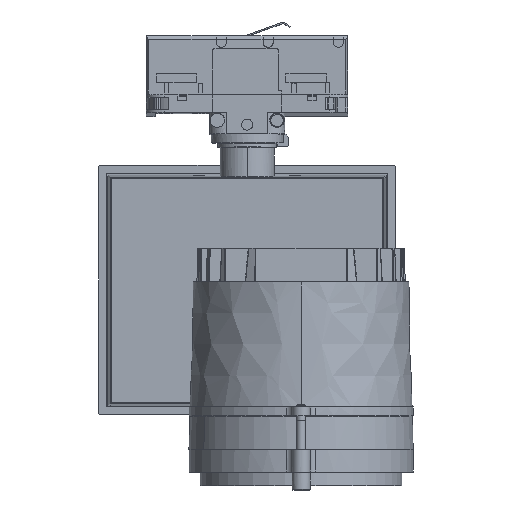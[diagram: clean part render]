
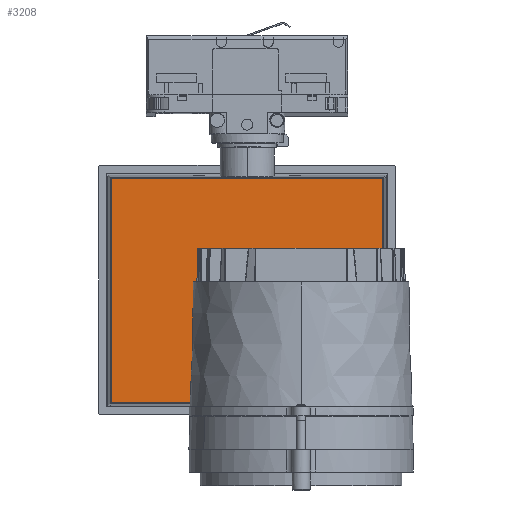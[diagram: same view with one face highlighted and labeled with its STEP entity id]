
A CAD part, left-side view. The second image highlights one B-rep face of the part: STEP entity #3208.
In plain terms, the highlighted planar face has unit normal (-1, 0, 0).
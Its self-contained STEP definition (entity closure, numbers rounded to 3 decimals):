
#2455=FACE_BOUND('',#10034,.T.);
#3208=ADVANCED_FACE('',(#6610,#2455),#61138,.T.);
#6610=FACE_OUTER_BOUND('',#10033,.T.);
#10033=EDGE_LOOP('',(#16710,#16711,#16712,#16713));
#10034=EDGE_LOOP('',(#16714));
#16710=ORIENTED_EDGE('',*,*,#31319,.F.);
#16711=ORIENTED_EDGE('',*,*,#31317,.F.);
#16712=ORIENTED_EDGE('',*,*,#31318,.F.);
#16713=ORIENTED_EDGE('',*,*,#31320,.T.);
#16714=ORIENTED_EDGE('',*,*,#31321,.F.);
#31317=EDGE_CURVE('',#55270,#55269,#41492,.T.);
#31318=EDGE_CURVE('',#55271,#55270,#41493,.T.);
#31319=EDGE_CURVE('',#55269,#55272,#41494,.T.);
#31320=EDGE_CURVE('',#55271,#55272,#41495,.T.);
#31321=EDGE_CURVE('',#55268,#55268,#51236,.T.);
#41492=B_SPLINE_CURVE_WITH_KNOTS('',1,(#102445,#102446),.UNSPECIFIED.,.F.,
 .F.,(2,2),(-120.826,0.),.UNSPECIFIED.);
#41493=B_SPLINE_CURVE_WITH_KNOTS('',1,(#102447,#102448),.UNSPECIFIED.,.F.,
 .F.,(2,2),(-99.826,0.),.UNSPECIFIED.);
#41494=B_SPLINE_CURVE_WITH_KNOTS('',1,(#102449,#102450),.UNSPECIFIED.,.F.,
 .F.,(2,2),(-99.826,0.),.UNSPECIFIED.);
#41495=B_SPLINE_CURVE_WITH_KNOTS('',1,(#102451,#102452),.UNSPECIFIED.,.F.,
 .F.,(2,2),(0.,120.826),.UNSPECIFIED.);
#51236=(
BOUNDED_CURVE()
B_SPLINE_CURVE(2,(#102453,#102454,#102455,#102456,#102457,#102458,#102459,
#102460,#102461,#102462,#102463,#102464,#102465),.UNSPECIFIED.,.T.,.F.)
B_SPLINE_CURVE_WITH_KNOTS((3,2,2,2,2,2,3),(32.987,35.61,
50.792,65.973,68.597,83.778,98.96),
 .UNSPECIFIED.)
CURVE()
GEOMETRIC_REPRESENTATION_ITEM()
RATIONAL_B_SPLINE_CURVE((1.,0.992,1.,0.75,1.,0.75,
1.,0.992,1.,0.75,1.,0.75,1.))
REPRESENTATION_ITEM('')
);
#55268=VERTEX_POINT('',#102440);
#55269=VERTEX_POINT('',#102441);
#55270=VERTEX_POINT('',#102442);
#55271=VERTEX_POINT('',#102443);
#55272=VERTEX_POINT('',#102444);
#61138=PLANE('',#64620);
#64620=AXIS2_PLACEMENT_3D('',#102439,#67450,$);
#67450=DIRECTION('',(-1.,0.,0.));
#102439=CARTESIAN_POINT('',(14.,145.105,37.384));
#102440=CARTESIAN_POINT('',(14.,58.5,-36.621));
#102441=CARTESIAN_POINT('',(14.,11.587,26.792));
#102442=CARTESIAN_POINT('',(14.,132.413,26.792));
#102443=CARTESIAN_POINT('',(14.,132.413,-73.034));
#102444=CARTESIAN_POINT('',(14.,11.587,-73.034));
#102445=CARTESIAN_POINT('',(14.,132.413,26.792));
#102446=CARTESIAN_POINT('',(14.,11.587,26.792));
#102447=CARTESIAN_POINT('',(14.,132.413,-73.034));
#102448=CARTESIAN_POINT('',(14.,132.413,26.792));
#102449=CARTESIAN_POINT('',(14.,11.587,26.792));
#102450=CARTESIAN_POINT('',(14.,11.587,-73.034));
#102451=CARTESIAN_POINT('',(14.,132.413,-73.034));
#102452=CARTESIAN_POINT('',(14.,11.587,-73.034));
#102453=CARTESIAN_POINT('',(14.,58.5,-36.621));
#102454=CARTESIAN_POINT('',(14.,58.5,-37.94));
#102455=CARTESIAN_POINT('',(14.,58.174,-39.217));
#102456=CARTESIAN_POINT('',(14.,55.883,-48.194));
#102457=CARTESIAN_POINT('',(14.,46.692,-47.039));
#102458=CARTESIAN_POINT('',(14.,37.5,-45.885));
#102459=CARTESIAN_POINT('',(14.,37.5,-36.621));
#102460=CARTESIAN_POINT('',(14.,37.5,-35.303));
#102461=CARTESIAN_POINT('',(14.,37.826,-34.025));
#102462=CARTESIAN_POINT('',(14.,40.117,-25.049));
#102463=CARTESIAN_POINT('',(14.,49.308,-26.203));
#102464=CARTESIAN_POINT('',(14.,58.5,-27.357));
#102465=CARTESIAN_POINT('',(14.,58.5,-36.621));
